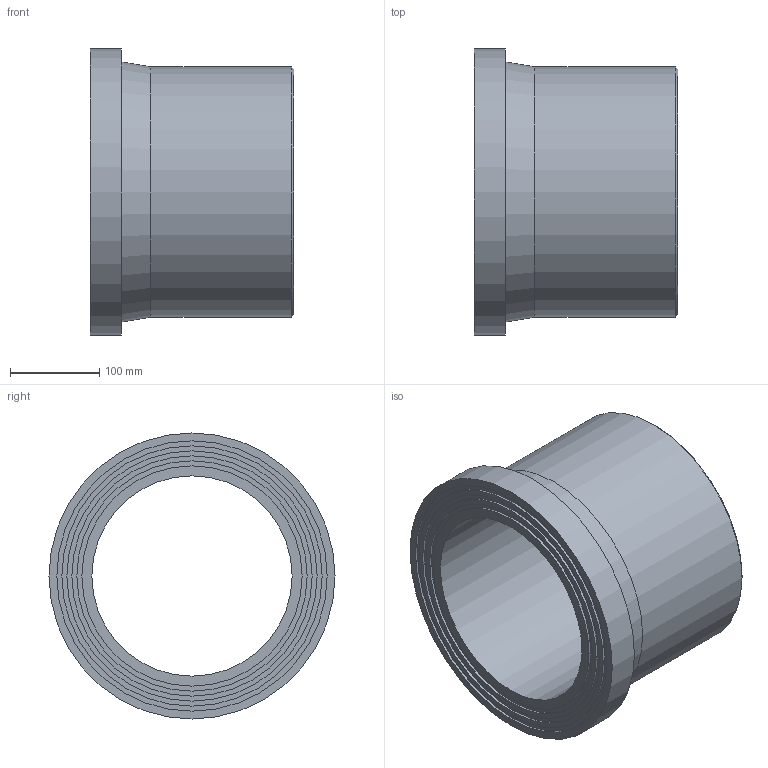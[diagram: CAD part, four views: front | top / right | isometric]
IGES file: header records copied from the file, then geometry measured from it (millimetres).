
Global section: file name: 490207280.ipt; native system: Autodesk Inventor 2015; preprocessor: unknown; author: Кирилл,,11,0; organization: 20170718.095537; date: 20190331.185838; units: millimetre
Bounding box: 228 x 320 x 320 mm (x, y, z)
Volume: 5750725.2 mm3; surface area: 456513.1 mm2
Topology: 1 solids, 1 shells, 20 faces, 33 edges, 22 vertices
Faces by surface type: plane 9, cylinder 5, revolution 4, cone 2
Full cylindrical faces by diameter (mm): 246.4 x1, 268.8 x1, 280 x1, 291.2 x1, 320 x1
